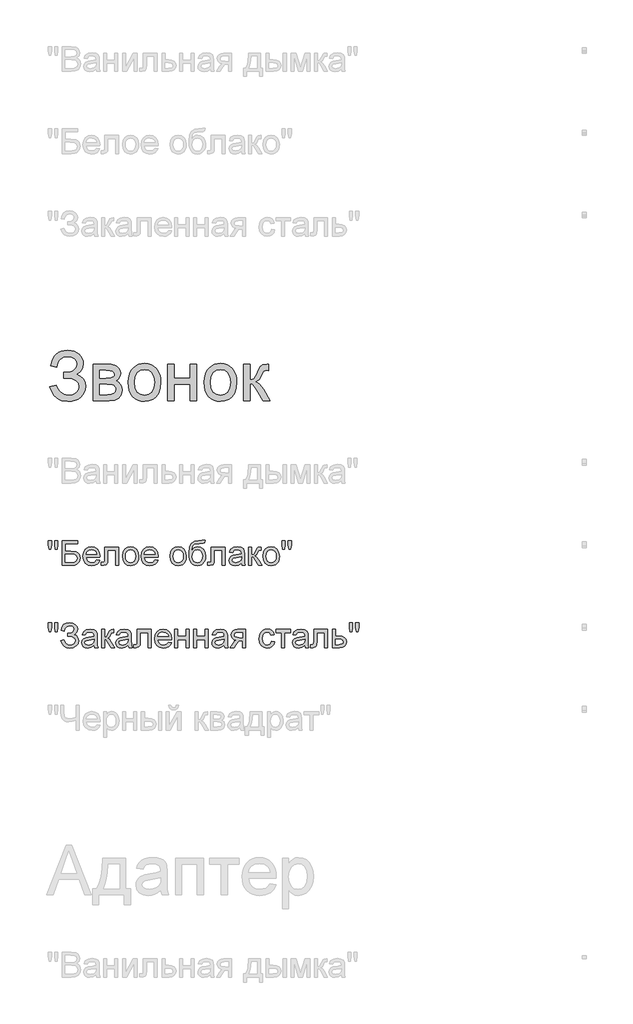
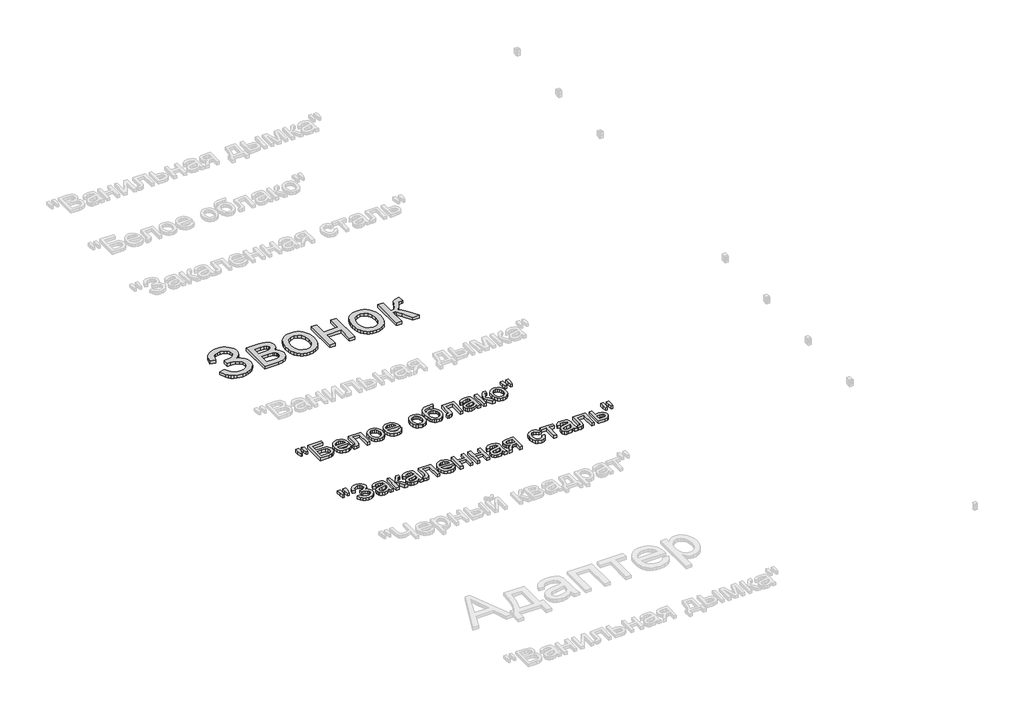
# One storey, part 66 of 168: 3 proxies.
"""IFC4 building model written with IfcOpenShell, lengths in millimetres."""

import ifcopenshell
import ifcopenshell.guid

model = None  # the IFC model being written
_history = None  # IfcOwnerHistory: only IFC2X3 demands one
_inside = {}  # id of a spatial element -> (the spatial element, [elements in it])
_under = {}  # id of a project, library or spatial element -> (it, [spatial elements below it])
_declared = {}  # id of a project -> (the project, [libraries it declares])
_typed = {}  # id of a type object -> (the type object, [elements of that type])
_made_of = {}  # id of a material, layer set ... -> (it, [elements and type objects made of it])


def new_model(schema):
    """Start an empty IFC model of exactly this schema.

    Asked for "IFC4X3", IfcOpenShell would pick the latest addendum, in which some entities
    have other attributes; the version numbers below select the first issue.
    IFC2X3 requires an IfcOwnerHistory on every rooted entity: one is made here for all.
    """
    global model, _history
    if schema == "IFC4X3":
        model = ifcopenshell.file(schema_version=(4, 3, 0, 0))
    else:
        model = ifcopenshell.file(schema=schema)
    _inside.clear()
    _under.clear()
    _declared.clear()
    _typed.clear()
    _made_of.clear()
    _history = None
    if model.schema == "IFC2X3":
        org = make("IfcOrganization", Name="unknown")
        user = make(
            "IfcPersonAndOrganization",
            ThePerson=make("IfcPerson", FamilyName="unknown"),
            TheOrganization=org,
        )
        app = make(
            "IfcApplication",
            ApplicationDeveloper=org,
            Version="unknown",
            ApplicationFullName="unknown",
            ApplicationIdentifier="unknown",
        )
        _history = make(
            "IfcOwnerHistory",
            OwningUser=user,
            OwningApplication=app,
            ChangeAction="ADDED",
            CreationDate=0,
        )
    return model


def make(cls, **values):
    """One entity of the class cls with the attributes given. An attribute that is None is left unset."""
    return model.create_entity(
        cls, **{name: value for name, value in values.items() if value is not None}
    )


def rooted(cls, **values):
    """An entity with a GlobalId (a new one), such as an element, a storey or a relation."""
    return make(cls, GlobalId=ifcopenshell.guid.new(), OwnerHistory=_history, **values)


def si_unit(unit_type, name, prefix=None):
    """IfcSIUnit, for example si_unit("LENGTHUNIT", "METRE", prefix="MILLI")."""
    return make("IfcSIUnit", UnitType=unit_type, Prefix=prefix, Name=name)


def assignment(units):
    """IfcUnitAssignment: the units of a project."""
    return None if units is None else make("IfcUnitAssignment", Units=units)


def point(xyz):
    """IfcCartesianPoint."""
    return None if xyz is None else make("IfcCartesianPoint", Coordinates=xyz)


def direction(xyz):
    """IfcDirection."""
    return None if xyz is None else make("IfcDirection", DirectionRatios=xyz)


def frame(location, z_axis=None, x_axis=None):
    """IfcAxis2Placement3D, a coordinate frame: its origin and axes. An axis left out is left unset."""
    return make(
        "IfcAxis2Placement3D",
        Location=point(location),
        Axis=direction(z_axis),
        RefDirection=direction(x_axis),
    )


def origin():
    """The frame at (0, 0, 0) with its axes left unset."""
    return frame((0.0, 0.0, 0.0))


def origin_with_axes():
    """The frame at (0, 0, 0) with the z axis (0, 0, 1) and the x axis (1, 0, 0) written out."""
    return frame((0.0, 0.0, 0.0), z_axis=(0.0, 0.0, 1.0), x_axis=(1.0, 0.0, 0.0))


def place(relative_to, where):
    """IfcLocalPlacement: puts the frame where relative to a parent placement (None: the world)."""
    return make(
        "IfcLocalPlacement", PlacementRelTo=relative_to, RelativePlacement=where
    )


def context(
    kind, dimensions, precision=None, world=None, true_north=None, identifier=None
):
    """IfcGeometricRepresentationContext, for example the 3D "Model" context."""
    return make(
        "IfcGeometricRepresentationContext",
        ContextIdentifier=identifier,
        ContextType=kind,
        CoordinateSpaceDimension=dimensions,
        Precision=precision,
        WorldCoordinateSystem=world,
        TrueNorth=true_north,
    )


def project(units=None, contexts=None):
    """IfcProject with its units and contexts."""
    return rooted(
        "IfcProject",
        Name="project",
        RepresentationContexts=contexts,
        UnitsInContext=assignment(units),
    )


def spatial(cls, under=None, at=None, **own):
    """A site, building, storey or space (cls), placed at a placement, below another one or the project."""
    s = rooted(cls, ObjectPlacement=at, **own)
    if under is not None:
        _under.setdefault(under.id(), (under, []))[1].append(s)
    return s


def polyline(points):
    """IfcPolyline through the points."""
    return make("IfcPolyline", Points=[point(p) for p in points])


def outline(outer, holes=None, kind="AREA"):
    """IfcArbitraryClosedProfileDef: a profile drawn as a closed curve; with holes, ...WithVoids."""
    if holes is None:
        return make("IfcArbitraryClosedProfileDef", ProfileType=kind, OuterCurve=outer)
    return make(
        "IfcArbitraryProfileDefWithVoids",
        ProfileType=kind,
        OuterCurve=outer,
        InnerCurves=holes,
    )


def extrude(swept, where, along, depth):
    """IfcExtrudedAreaSolid: the profile swept, set in the frame where, extruded along a direction by depth."""
    return make(
        "IfcExtrudedAreaSolid",
        SweptArea=swept,
        Position=where,
        ExtrudedDirection=direction(along),
        Depth=depth,
    )


def shape(context_of_items, identifier, shape_type, items):
    """IfcShapeRepresentation: the items that make up one representation, for example the "Body"."""
    return make(
        "IfcShapeRepresentation",
        ContextOfItems=context_of_items,
        RepresentationIdentifier=identifier,
        RepresentationType=shape_type,
        Items=items,
    )


def made_of(thing, what):
    """Note that an element or type object is made of a material, layer set ...; save() writes the relation."""
    if what is not None:
        _made_of.setdefault(what.id(), (what, []))[1].append(thing)
    return thing


def element(
    cls,
    number,
    at=None,
    inside=None,
    cuts=None,
    type_object=None,
    material=None,
    context=None,
    identifier="Body",
    shape_type=None,
    held_by="IfcProductDefinitionShape",
    body=None,
    shapes=None,
    **own,
):
    """One element of the class cls, such as IfcWall. Its Tag is "e" and its number.

    at: its placement. inside: the storey or other place that contains it. cuts: it is an
    opening in that element (IfcRelVoidsElement). A single representation is given by context,
    identifier, shape_type and body (its items); several are given by shapes. held_by: the class
    of the entity that holds the representations. save() writes the other relations.
    """
    e = rooted(cls, Tag="e%d" % number, ObjectPlacement=at, **own)
    if body is not None:
        shapes = [shape(context, identifier, shape_type, body)]
    if shapes is not None:
        e.Representation = make(held_by, Representations=shapes)
    if inside is not None:
        _inside.setdefault(inside.id(), (inside, []))[1].append(e)
    if cuts is not None:
        rooted(
            "IfcRelVoidsElement", RelatingBuildingElement=cuts, RelatedOpeningElement=e
        )
    if type_object is not None:
        _typed.setdefault(type_object.id(), (type_object, []))[1].append(e)
    return made_of(e, material)


def aggregate(whole, parts):
    """IfcRelAggregates: a whole, such as a stair, and the parts it consists of."""
    return rooted("IfcRelAggregates", RelatingObject=whole, RelatedObjects=parts)


def save(model, path):
    """Write the relations noted so far, then the file.

    IfcRelAggregates (storeys below a building ...), IfcRelContainedInSpatialStructure (elements
    in a storey), IfcRelDefinesByType, IfcRelAssociatesMaterial and IfcRelDeclares: one each for
    every whole, place, type object, material and project.
    """
    for whole, parts in _under.values():
        aggregate(whole, parts)
    for where, things in _inside.values():
        rooted(
            "IfcRelContainedInSpatialStructure",
            RelatedElements=things,
            RelatingStructure=where,
        )
    for kind, things in _typed.values():
        rooted("IfcRelDefinesByType", RelatedObjects=things, RelatingType=kind)
    for what, things in _made_of.values():
        rooted("IfcRelAssociatesMaterial", RelatedObjects=things, RelatingMaterial=what)
    for by, libraries in _declared.values():
        rooted("IfcRelDeclares", RelatingContext=by, RelatedDefinitions=libraries)
    model.write(path)


model = new_model("IFC4")

# Units and contexts
model_context = context("Model", 3, world=origin())
ifc_project = project(units=[si_unit("LENGTHUNIT", "METRE", prefix="MILLI")], contexts=[model_context])

# Site, building, storey
site = spatial("IfcSite", under=ifc_project)
building = spatial("IfcBuilding", under=site)
storey = spatial("IfcBuildingStorey", under=building, Name="Этаж 01", Elevation=0.0)

# Proxies
placement = place(None, origin())
element("IfcBuildingElementProxy", 1, Name="300 мм Arial 2", ObjectType="300 мм Arial 2", at=placement, inside=storey, context=model_context, shape_type="SweptSolid", body=[
    extrude(outline(polyline([(54394.5965281, -37482.102286), (54432.2676444, -37472.684507), (54440.2230925, -37493.0743666), (54455.4074219, -37513.4826202), (54477.2688094, -37528.7957083), (54505.2554322, -37533.900071), (54533.609937, -37530.0649012), (54555.2505954, -37518.5593918), (54568.9633967, -37501.6276229), (54573.5343305, -37481.5136749), (54568.5403324, -37460.4432336), (54553.5583382, -37444.1736523), (54529.9679052, -37433.7717889), (54499.1485911, -37430.3045011), (54479.3565398, -37430.3045011), (54479.3565398, -37392.6333848), (54521.994063, -37389.5799643), (54535.8908054, -37384.1537048), (54548.0768965, -37373.9817677), (54556.5749705, -37360.581666), (54559.4076619, -37345.470913), (54555.6368715, -37327.7298038), (54544.3245001, -37312.4718981), (54526.5741938, -37301.9596701), (54503.4895986, -37298.4555941), (54482.6214925, -37301.1503297), (54465.0459301, -37309.2345365), (54451.5814491, -37321.7701155), (54443.0465868, -37337.8189675), (54436.9765339, -37364.3800476), (54399.3054176, -37354.9622685), (54411.0086636, -37313.7594851), (54420.4229938, -37297.5726773), (54432.2124621, -37284.3289254), (54446.3770685, -37274.0282296), (54462.9168131, -37266.6705897), (54481.8316958, -37262.2560057), (54503.1217166, -37260.7844777), (54523.6334371, -37262.3134873), (54541.905676, -37266.9005159), (54557.9384332, -37274.5455636), (54571.7317087, -37285.2486304), (54582.8210516, -37297.9980408), (54590.7420108, -37311.7821193), (54595.4945864, -37326.6008659), (54597.0787782, -37342.4542807), (54594.6139688, -37362.2785217), (54587.2195407, -37379.7391209), (54574.8954939, -37394.8360783), (54557.6418283, -37407.5693938), (54578.592708, -37417.2170991), (54595.8279794, -37433.5050745), (54607.36108, -37455.0353682), (54611.2054468, -37480.4100289), (54609.3614383, -37499.0409527), (54603.8294128, -37516.0853853), (54594.6093703, -37531.5433269), (54581.7013108, -37545.4147774), (54565.7490278, -37556.8582067), (54547.3963148, -37565.0320848), (54526.6431717, -37569.9364117), (54503.4895986, -37571.5711873), (54465.2850534, -37565.9793809), (54448.9281002, -37558.989623), (54434.4013599, -37549.203962), (54421.7048326, -37536.6223977), (54410.8385182, -37521.2449303), (54394.5965281, -37482.102286)])), origin_with_axes(), (0.0, 0.0, 1.0), 20.0),
    extrude(outline(polyline([(54658.2943422, -37345.5444894), (54741.2885203, -37345.5444894), (54767.969162, -37346.8044853), (54786.7955231, -37350.5844728), (54800.6462802, -37357.7213835), (54812.40011, -37369.0521489), (54820.4291345, -37383.813414), (54823.105476, -37401.2418235), (54821.4867953, -37415.2857187), (54816.6307529, -37427.3982334), (54808.5189549, -37437.6345499), (54797.1330072, -37446.0498505), (54811.0757348, -37453.87654), (54822.4432885, -37466.4673013), (54830.0032635, -37482.828853), (54832.5232551, -37501.9679138), (54826.1405025, -37530.6811035), (54810.9653702, -37550.8962191), (54786.9426759, -37562.8707781), (54754.0172374, -37566.8622977), (54658.2943422, -37566.8622977), (54658.2943422, -37345.5444894)]), holes=[polyline([(54695.9654585, -37430.3045011), (54733.1951164, -37430.3045011), (54763.913263, -37428.3915147), (54778.849272, -37420.7395692), (54783.7880878, -37414.4119989), (54785.4343597, -37406.9072062), (54782.5464861, -37395.6684113), (54773.8828651, -37388.4395301), (54758.2294862, -37384.5215868), (54734.3723388, -37383.2156057), (54695.9654585, -37383.2156057), (54695.9654585, -37430.3045011)]), polyline([(54695.9654585, -37529.1911814), (54742.1714371, -37529.1911814), (54767.3529597, -37527.4897272), (54783.1534914, -37522.3853645), (54791.6331714, -37513.1055412), (54794.8521388, -37498.877705), (54793.2426551, -37489.4507289), (54788.4142039, -37480.7411227), (54781.0013817, -37473.9261087), (54771.6387849, -37470.1829094), (54738.4926172, -37467.9756174), (54695.9654585, -37467.9756174), (54695.9654585, -37529.1911814)])]), origin_with_axes(), (0.0, 0.0, 1.0), 20.0),
    extrude(outline(polyline([(54870.1943714, -37456.2033936), (54872.231518, -37427.5407876), (54878.3429576, -37402.8421102), (54888.5286904, -37382.1073612), (54902.7887162, -37365.3365408), (54917.1453111, -37354.6173791), (54932.991828, -37346.9608351), (54950.328267, -37342.3669087), (54969.1546281, -37340.8355999), (54989.9376616, -37342.7003018), (55008.7295338, -37348.2944073), (55025.5302446, -37357.6179167), (55040.3397942, -37370.6708297), (55052.427017, -37387.0116881), (55061.0607476, -37406.1990334), (55066.2409859, -37428.2328656), (55067.967732, -37453.1131848), (55064.9143115, -37491.1705772), (55055.7540498, -37520.1412843), (55040.7536614, -37541.837125), (55020.1798609, -37558.069918), (54995.7432993, -37568.19587), (54969.1546281, -37571.5711873), (54948.068092, -37569.7133832), (54929.1014759, -37564.139971), (54912.2547798, -37554.8509506), (54897.5280037, -37541.8463221), (54885.5695396, -37525.3468146), (54877.0277795, -37505.5731573), (54871.9027234, -37482.5253503), (54870.1943714, -37456.2033936)]), holes=[polyline([(54907.8654877, -37456.1298172), (54912.2248894, -37490.2232811), (54925.3030943, -37514.5126898), (54944.984781, -37529.0532257), (54969.1546281, -37533.900071), (54993.2141106, -37529.0256345), (55012.8590092, -37514.4023252), (55025.9372141, -37489.7910197), (55030.2966157, -37454.9525948), (55025.9096229, -37421.8524123), (55012.7486446, -37397.8940973), (54993.0761549, -37383.3535615), (54969.1546281, -37378.5067162), (54944.984781, -37383.3351674), (54925.3030943, -37397.820521), (54912.2248894, -37422.0547474), (54907.8654877, -37456.1298172)])]), origin_with_axes(), (0.0, 0.0, 1.0), 20.0),
    extrude(outline(polyline([(55110.3477379, -37345.5444894), (55148.0188542, -37345.5444894), (55148.0188542, -37430.3045011), (55246.9055345, -37430.3045011), (55246.9055345, -37345.5444894), (55284.5766508, -37345.5444894), (55284.5766508, -37566.8622977), (55246.9055345, -37566.8622977), (55246.9055345, -37467.9756174), (55148.0188542, -37467.9756174), (55148.0188542, -37566.8622977), (55110.3477379, -37566.8622977), (55110.3477379, -37345.5444894)])), origin_with_axes(), (0.0, 0.0, 1.0), 20.0),
    extrude(outline(polyline([(55331.6655462, -37456.2033936), (55333.7026927, -37427.5407876), (55339.8141324, -37402.8421102), (55349.9998651, -37382.1073612), (55364.259891, -37365.3365408), (55378.6164858, -37354.6173791), (55394.4630028, -37346.9608351), (55411.7994418, -37342.3669087), (55430.6258029, -37340.8355999), (55451.4088363, -37342.7003018), (55470.2007085, -37348.2944073), (55487.0014194, -37357.6179167), (55501.8109689, -37370.6708297), (55513.8981918, -37387.0116881), (55522.5319223, -37406.1990334), (55527.7121607, -37428.2328656), (55529.4389068, -37453.1131848), (55526.3854862, -37491.1705772), (55517.2252245, -37520.1412843), (55502.2248362, -37541.837125), (55481.6510356, -37558.069918), (55457.2144741, -37568.19587), (55430.6258029, -37571.5711873), (55409.5392668, -37569.7133832), (55390.5726507, -37564.139971), (55373.7259545, -37554.8509506), (55358.9991784, -37541.8463221), (55347.0407143, -37525.3468146), (55338.4989542, -37505.5731573), (55333.3738982, -37482.5253503), (55331.6655462, -37456.2033936)]), holes=[polyline([(55369.3366625, -37456.1298172), (55373.6960641, -37490.2232811), (55386.7742691, -37514.5126898), (55406.4559558, -37529.0532257), (55430.6258029, -37533.900071), (55454.6852854, -37529.0256345), (55474.3301839, -37514.4023252), (55487.4083888, -37489.7910197), (55491.7677905, -37454.9525948), (55487.3807977, -37421.8524123), (55474.2198193, -37397.8940973), (55454.5473296, -37383.3535615), (55430.6258029, -37378.5067162), (55406.4559558, -37383.3351674), (55386.7742691, -37397.820521), (55373.6960641, -37422.0547474), (55369.3366625, -37456.1298172)])]), origin_with_axes(), (0.0, 0.0, 1.0), 20.0),
    extrude(outline(polyline([(55571.8189126, -37345.5444894), (55609.4900289, -37345.5444894), (55609.4900289, -37439.7222802), (55624.812314, -37438.030023), (55634.7267338, -37432.9532515), (55643.5007194, -37419.7094997), (55655.4017019, -37393.5163016), (55672.5817911, -37359.4872171), (55687.7385293, -37348.413969), (55715.2928907, -37345.5444894), (55722.5033779, -37345.5444894), (55722.5033779, -37383.4363349), (55712.3498348, -37383.2156057), (55693.955735, -37387.1887313), (55681.0062888, -37411.9839778), (55665.8127624, -37438.8025752), (55644.5123949, -37451.9359624), (55656.4501656, -37457.2380617), (55668.2775718, -37466.5960599), (55691.6012903, -37497.4797534), (55731.9211569, -37566.8622977), (55689.0996927, -37566.8622977), (55649.5891664, -37498.9512814), (55629.7235387, -37470.2196976), (55620.4345183, -37465.0049703), (55609.4900289, -37463.2667279), (55609.4900289, -37566.8622977), (55571.8189126, -37566.8622977), (55571.8189126, -37345.5444894)])), origin_with_axes(), (0.0, 0.0, 1.0), 20.0),
])
element("IfcBuildingElementProxy", 2, Name="150", ObjectType="150", at=placement, inside=storey, context=model_context, shape_type="SweptSolid", body=[
    extrude(outline(polyline([(54389.7772739, -38470.3300622), (54385.178749, -38441.2305964), (54385.178749, -38416.1778325), (54404.0143071, -38416.1778325), (54404.0143071, -38441.2305964), (54399.8940288, -38470.3300622), (54389.7772739, -38470.3300622)])), origin_with_axes(), (0.0, 0.0, 1.0), 20.0),
    extrude(outline(polyline([(54427.3380256, -38470.3300622), (54422.8498653, -38441.2305964), (54422.8498653, -38416.1778325), (54441.6854234, -38416.1778325), (54441.6854234, -38441.2305964), (54437.2708395, -38470.3300622), (54427.3380256, -38470.3300622)])), origin_with_axes(), (0.0, 0.0, 1.0), 20.0),
    extrude(outline(polyline([(54467.5843159, -38416.1778325), (54561.7621067, -38416.1778325), (54561.7621067, -38435.0133907), (54486.4198741, -38435.0133907), (54486.4198741, -38479.7478413), (54521.6997574, -38479.7478413), (54552.785786, -38483.573814), (54563.1876494, -38489.101241), (54571.2902503, -38498.0315764), (54576.5049776, -38509.5278888), (54578.2432201, -38522.7532465), (54573.2952072, -38544.2191609), (54558.5247451, -38560.5347274), (54545.2534021, -38565.2804052), (54525.0842718, -38566.8622977), (54467.5843159, -38566.8622977), (54467.5843159, -38416.1778325)]), holes=[polyline([(54486.4198741, -38548.0267396), (54526.7765289, -38548.0267396), (54541.0411533, -38546.4724382), (54551.2406816, -38541.8095339), (54557.3659168, -38534.0380267), (54559.4076619, -38523.1579167), (54554.7355606, -38508.4058487), (54541.730932, -38500.533174), (54513.3488361, -38498.5833994), (54486.4198741, -38498.5833994), (54486.4198741, -38548.0267396)])]), origin_with_axes(), (0.0, 0.0, 1.0), 20.0),
    extrude(outline(polyline([(54679.2636159, -38533.900071), (54697.7312921, -38536.2545157), (54691.0772265, -38550.1696522), (54680.4592324, -38560.5715156), (54666.1164331, -38567.0554358), (54648.2879519, -38569.2167425), (54626.1874411, -38565.4873388), (54609.1820959, -38554.2991276), (54598.338774, -38536.3786759), (54594.7243334, -38512.4525506), (54598.3755622, -38487.7216835), (54609.3292486, -38469.2264162), (54626.1046676, -38457.6933157), (54647.2210942, -38453.8489488), (54667.6799316, -38457.6841186), (54684.0276878, -38469.189628), (54694.7468494, -38487.6481071), (54698.3199033, -38512.342186), (54698.2095387, -38517.4189576), (54613.5598916, -38517.4189576), (54616.8202458, -38531.518035), (54624.3940164, -38541.8831103), (54635.3247101, -38548.2566658), (54648.6558339, -38550.3811843), (54667.1235101, -38546.444847), (54679.2636159, -38533.900071)]), holes=[polyline([(54613.5598916, -38498.5833994), (54679.4843451, -38498.5833994), (54676.9367623, -38488.6321915), (54671.9427642, -38481.5136749), (54660.9614867, -38474.8917989), (54647.1475178, -38472.684507), (54634.4509904, -38474.445742), (54623.952558, -38479.7294472), (54616.6546989, -38487.9654053), (54613.5598916, -38498.5833994)])]), origin_with_axes(), (0.0, 0.0, 1.0), 20.0),
    extrude(outline(polyline([(54726.5732405, -38456.2033936), (54811.3332522, -38456.2033936), (54811.3332522, -38566.7519331), (54792.497694, -38566.7519331), (54792.497694, -38475.0389517), (54745.4087987, -38475.0389517), (54745.4087987, -38527.830018), (54744.1396058, -38552.1838061), (54737.168242, -38562.4661079), (54720.6871286, -38566.8622977), (54705.3832376, -38565.9058045), (54705.3832376, -38548.0267396), (54713.8077353, -38548.0267396), (54722.3242035, -38546.8679113), (54725.7271119, -38543.1890913), (54726.5732405, -38526.7631603), (54726.5732405, -38456.2033936)])), origin_with_axes(), (0.0, 0.0, 1.0), 20.0),
    extrude(outline(polyline([(54834.8776999, -38511.5328457), (54838.951993, -38484.852204), (54851.1748723, -38466.0994193), (54866.2764282, -38456.9115664), (54884.3578282, -38453.8489488), (54904.1452811, -38457.5783525), (54919.9504113, -38468.7665637), (54930.310888, -38486.5306656), (54933.7643802, -38509.9877413), (54932.2376699, -38529.0164375), (54927.6575391, -38543.501791), (54920.1573449, -38554.3497114), (54909.8704446, -38562.4661079), (54897.6521638, -38567.5290839), (54884.3578282, -38569.2167425), (54864.3312521, -38565.5011344), (54848.544516, -38554.3543099), (54838.2944039, -38536.2177275), (54834.8776999, -38511.5328457)]), holes=[polyline([(54853.713258, -38511.4960575), (54855.8929589, -38528.5427894), (54862.4320613, -38540.6874938), (54872.2729047, -38547.9577617), (54884.3578282, -38550.3811843), (54896.3875695, -38547.9439661), (54906.2100188, -38540.6323115), (54912.7491212, -38528.3266587), (54914.928822, -38510.9074463), (54912.7353256, -38494.357355), (54906.1548365, -38482.3781975), (54896.3185916, -38475.1079296), (54884.3578282, -38472.684507), (54872.2729047, -38475.0987326), (54862.4320613, -38482.3414093), (54855.8929589, -38494.4585226), (54853.713258, -38511.4960575)])]), origin_with_axes(), (0.0, 0.0, 1.0), 20.0),
    extrude(outline(polyline([(55032.4303313, -38533.900071), (55050.8980075, -38536.2545157), (55044.2439419, -38550.1696522), (55033.6259478, -38560.5715156), (55019.2831485, -38567.0554358), (55001.4546673, -38569.2167425), (54979.3541564, -38565.4873388), (54962.3488112, -38554.2991276), (54951.5054894, -38536.3786759), (54947.8910488, -38512.4525506), (54951.5422776, -38487.7216835), (54962.495964, -38469.2264162), (54979.271383, -38457.6933157), (55000.3878095, -38453.8489488), (55020.846647, -38457.6841186), (55037.1944031, -38469.189628), (55047.9135648, -38487.6481071), (55051.4866187, -38512.342186), (55051.3762541, -38517.4189576), (54966.726607, -38517.4189576), (54969.9869611, -38531.518035), (54977.5607317, -38541.8831103), (54988.4914255, -38548.2566658), (55001.8225493, -38550.3811843), (55020.2902255, -38546.444847), (55032.4303313, -38533.900071)]), holes=[polyline([(54966.726607, -38498.5833994), (55032.6510605, -38498.5833994), (55030.1034777, -38488.6321915), (55025.1094796, -38481.5136749), (55014.128202, -38474.8917989), (55000.3142331, -38472.684507), (54987.6177058, -38474.445742), (54977.1192733, -38479.7294472), (54969.8214142, -38487.9654053), (54966.726607, -38498.5833994)])]), origin_with_axes(), (0.0, 0.0, 1.0), 20.0),
    extrude(outline(polyline([(55124.4744065, -38511.5328457), (55128.5486996, -38484.852204), (55140.7715789, -38466.0994193), (55155.8731348, -38456.9115664), (55173.9545348, -38453.8489488), (55193.7419877, -38457.5783525), (55209.5471179, -38468.7665637), (55219.9075946, -38486.5306656), (55223.3610868, -38509.9877413), (55221.8343765, -38529.0164375), (55217.2542457, -38543.501791), (55209.7540515, -38554.3497114), (55199.4671512, -38562.4661079), (55187.2488704, -38567.5290839), (55173.9545348, -38569.2167425), (55153.9279587, -38565.5011344), (55138.1412226, -38554.3543099), (55127.8911105, -38536.2177275), (55124.4744065, -38511.5328457)]), holes=[polyline([(55143.3099646, -38511.4960575), (55145.4896655, -38528.5427894), (55152.0287679, -38540.6874938), (55161.8696113, -38547.9577617), (55173.9545348, -38550.3811843), (55185.9842761, -38547.9439661), (55195.8067254, -38540.6323115), (55202.3458278, -38528.3266587), (55204.5255286, -38510.9074463), (55202.3320323, -38494.357355), (55195.7515431, -38482.3781975), (55185.9152982, -38475.1079296), (55173.9545348, -38472.684507), (55161.8696113, -38475.0987326), (55152.0287679, -38482.3414093), (55145.4896655, -38494.4585226), (55143.3099646, -38511.4960575)])]), origin_with_axes(), (0.0, 0.0, 1.0), 20.0),
    extrude(outline(polyline([(55322.2477671, -38413.8233877), (55338.7288805, -38413.8233877), (55333.8728382, -38428.5202734), (55324.2711181, -38433.8361683), (55301.204917, -38435.0133907), (55270.1372825, -38439.3543982), (55263.0095688, -38445.0013868), (55258.2179058, -38453.2603376), (55254.189598, -38477.8716431), (55270.5051645, -38459.8454253), (55280.4241828, -38455.3480679), (55291.5296205, -38453.8489488), (55311.1285338, -38457.661126), (55327.030233, -38469.0976575), (55337.5700522, -38487.0365033), (55341.0833253, -38510.3556233), (55339.3404843, -38528.3358558), (55334.1119614, -38542.766027), (55317.5756658, -38562.3189551), (55306.2816885, -38567.4922957), (55291.5296205, -38569.2167425), (55274.5288738, -38566.995655), (55261.7863612, -38560.3323923), (55252.4099688, -38550.2064404), (55245.5075829, -38537.597285), (55241.2585459, -38518.6099755), (55239.8422002, -38489.3495614), (55243.4152541, -38453.2097538), (55254.1344157, -38431.1690238), (55272.2663995, -38419.9256303), (55298.07792, -38416.1778325), (55319.0471937, -38415.7547682), (55322.2477671, -38413.8233877)]), holes=[polyline([(55322.2477671, -38509.7670121), (55320.206022, -38494.9459662), (55314.0807868, -38483.0771733), (55304.2399434, -38475.2826736), (55291.0513739, -38472.684507), (55277.3017843, -38475.4298264), (55267.102256, -38483.6657845), (55260.7838828, -38496.4910706), (55258.6777583, -38513.0043736), (55261.004612, -38529.011839), (55267.9851728, -38540.7610702), (55278.3778392, -38547.9761558), (55290.9410093, -38550.3811843), (55303.5685588, -38547.5990768), (55313.565752, -38539.252754), (55320.0772633, -38526.3171033), (55322.2477671, -38509.7670121)])]), origin_with_axes(), (0.0, 0.0, 1.0), 20.0),
    extrude(outline(polyline([(55374.045552, -38456.2033936), (55458.8055637, -38456.2033936), (55458.8055637, -38566.7519331), (55439.9700056, -38566.7519331), (55439.9700056, -38475.0389517), (55392.8811102, -38475.0389517), (55392.8811102, -38527.830018), (55391.6119173, -38552.1838061), (55384.6405535, -38562.4661079), (55368.1594401, -38566.8622977), (55352.8555491, -38565.9058045), (55352.8555491, -38548.0267396), (55361.2800468, -38548.0267396), (55369.796515, -38546.8679113), (55373.1994234, -38543.1890913), (55374.045552, -38526.7631603), (55374.045552, -38456.2033936)])), origin_with_axes(), (0.0, 0.0, 1.0), 20.0),
    extrude(outline(polyline([(55557.692244, -38552.7356291), (55539.426903, -38565.5011344), (55519.2485755, -38569.2167425), (55503.5078247, -38566.9818594), (55491.8965492, -38560.27721), (55484.7366458, -38550.0960758), (55482.3500114, -38537.4317381), (55485.955255, -38522.5325173), (55495.4282163, -38511.7167867), (55508.6167859, -38505.5363691), (55524.9139582, -38502.7036778), (55557.5818794, -38496.2289547), (55557.692244, -38492.0350999), (55556.39546, -38483.6289963), (55552.5051079, -38478.1291605), (55543.8046987, -38474.0456704), (55531.682987, -38472.684507), (55512.6266996, -38476.3081446), (55503.5400143, -38489.1656204), (55484.7044562, -38486.8111756), (55492.8530424, -38468.4170758), (55509.2605794, -38457.6381334), (55534.1110081, -38453.8489488), (55556.9380859, -38457.196675), (55569.8323499, -38465.6027786), (55575.6080972, -38478.3866779), (55576.5278022, -38494.8677913), (55576.5278022, -38518.3018744), (55577.4842954, -38551.0249778), (55581.2366917, -38566.8622977), (55562.4011336, -38566.8622977), (55557.692244, -38552.7356291)]), holes=[polyline([(55557.692244, -38515.0645128), (55527.3051912, -38520.8402601), (55511.0999893, -38523.8936807), (55503.7607435, -38528.8600876), (55501.1855696, -38536.1073629), (55506.79577, -38546.2976942), (55523.2584893, -38550.3811843), (55542.3147766, -38545.8746299), (55554.6020353, -38534.9669288), (55557.5818794, -38520.3988017), (55557.692244, -38515.0645128)])]), origin_with_axes(), (0.0, 0.0, 1.0), 20.0),
    extrude(outline(polyline([(55602.4266946, -38456.2033936), (55621.2622528, -38456.2033936), (55621.2622528, -38503.292289), (55633.8806052, -38499.9077746), (55644.2180893, -38480.1892997), (55652.8081339, -38463.1747574), (55660.386503, -38457.6381334), (55674.1636837, -38456.2033936), (55677.7689272, -38456.2033936), (55677.7689272, -38475.1493163), (55672.6921557, -38475.0389517), (55663.4951058, -38477.0255145), (55657.0203827, -38489.4231377), (55649.4236195, -38502.8324365), (55638.7734358, -38509.3991301), (55650.6560242, -38516.7291788), (55662.3178834, -38532.1710256), (55682.4778168, -38566.8622977), (55661.0670847, -38566.8622977), (55641.3118215, -38532.9067896), (55631.3790077, -38518.5409977), (55621.2622528, -38515.0645128), (55621.2622528, -38566.8622977), (55602.4266946, -38566.8622977), (55602.4266946, -38456.2033936)])), origin_with_axes(), (0.0, 0.0, 1.0), 20.0),
    extrude(outline(polyline([(55689.5411511, -38511.5328457), (55693.6154442, -38484.852204), (55705.8383235, -38466.0994193), (55720.9398794, -38456.9115664), (55739.0212794, -38453.8489488), (55758.8087323, -38457.5783525), (55774.6138625, -38468.7665637), (55784.9743392, -38486.5306656), (55788.4278314, -38509.9877413), (55786.9011211, -38529.0164375), (55782.3209903, -38543.501791), (55774.8207961, -38554.3497114), (55764.5338958, -38562.4661079), (55752.315615, -38567.5290839), (55739.0212794, -38569.2167425), (55718.9947033, -38565.5011344), (55703.2079672, -38554.3543099), (55692.9578551, -38536.2177275), (55689.5411511, -38511.5328457)]), holes=[polyline([(55708.3767092, -38511.4960575), (55710.5564101, -38528.5427894), (55717.0955125, -38540.6874938), (55726.9363559, -38547.9577617), (55739.0212794, -38550.3811843), (55751.0510207, -38547.9439661), (55760.87347, -38540.6323115), (55767.4125724, -38528.3266587), (55769.5922732, -38510.9074463), (55767.3987768, -38494.357355), (55760.8182877, -38482.3781975), (55750.9820428, -38475.1079296), (55739.0212794, -38472.684507), (55726.9363559, -38475.0987326), (55717.0955125, -38482.3414093), (55710.5564101, -38494.4585226), (55708.3767092, -38511.4960575)])]), origin_with_axes(), (0.0, 0.0, 1.0), 20.0),
    extrude(outline(polyline([(55809.5074697, -38470.3300622), (55804.9089448, -38441.2305964), (55804.9089448, -38416.1778325), (55823.7445029, -38416.1778325), (55823.7445029, -38441.2305964), (55819.6242246, -38470.3300622), (55809.5074697, -38470.3300622)])), origin_with_axes(), (0.0, 0.0, 1.0), 20.0),
    extrude(outline(polyline([(55847.0682214, -38470.3300622), (55842.5800611, -38441.2305964), (55842.5800611, -38416.1778325), (55861.4156192, -38416.1778325), (55861.4156192, -38441.2305964), (55857.0010353, -38470.3300622), (55847.0682214, -38470.3300622)])), origin_with_axes(), (0.0, 0.0, 1.0), 20.0),
])
element("IfcBuildingElementProxy", 3, Name="150", ObjectType="150", at=placement, inside=storey, context=model_context, shape_type="SweptSolid", body=[
    extrude(outline(polyline([(54389.7772739, -38970.3300622), (54385.178749, -38941.2305964), (54385.178749, -38916.1778325), (54404.0143071, -38916.1778325), (54404.0143071, -38941.2305964), (54399.8940288, -38970.3300622), (54389.7772739, -38970.3300622)])), origin_with_axes(), (0.0, 0.0, 1.0), 20.0),
    extrude(outline(polyline([(54427.3380256, -38970.3300622), (54422.8498653, -38941.2305964), (54422.8498653, -38916.1778325), (54441.6854234, -38916.1778325), (54441.6854234, -38941.2305964), (54437.2708395, -38970.3300622), (54427.3380256, -38970.3300622)])), origin_with_axes(), (0.0, 0.0, 1.0), 20.0),
    extrude(outline(polyline([(54460.5209816, -39024.4822919), (54479.3565398, -39019.7734024), (54490.9264285, -39040.172459), (54501.8571223, -39047.829003), (54515.8504337, -39050.3811843), (54530.0276861, -39048.4635995), (54540.8480152, -39042.7108448), (54547.7044159, -39034.2449603), (54549.9898828, -39024.1879863), (54547.4928838, -39013.6527657), (54540.0018867, -39005.517975), (54528.2066702, -39000.3170433), (54512.7970131, -38998.5833994), (54502.9009874, -38998.5833994), (54502.9009874, -38979.7478413), (54524.2197491, -38978.221131), (54537.2611658, -38970.4220327), (54542.9265485, -38956.1666054), (54541.0411533, -38947.2960508), (54535.3849676, -38939.6670979), (54526.5098145, -38934.4109839), (54514.9675169, -38932.6589459), (54495.7456826, -38938.0484171), (54484.746011, -38952.3406326), (54481.7109845, -38965.6211727), (54462.8754264, -38960.9122831), (54468.7270494, -38940.3108914), (54479.3289486, -38925.5956116), (54494.6811241, -38916.7664437), (54514.7835759, -38913.8233877), (54534.1755556, -38916.8814068), (54549.0885719, -38926.0554641), (54558.593723, -38939.3222085), (54561.7621067, -38954.6582892), (54556.8324879, -38973.3007093), (54542.0436317, -38987.2158458), (54552.5190715, -38992.0396984), (54561.1367073, -39000.1836861), (54566.9032576, -39010.948833), (54568.825441, -39023.6361633), (54565.137424, -39041.4738415), (54554.073373, -39056.1385376), (54536.9208749, -39065.9471913), (54514.9675169, -39069.2167425), (54495.8652443, -39066.4208393), (54480.4233975, -39058.0331298), (54468.6419766, -39044.053614), (54460.5209816, -39024.4822919)])), origin_with_axes(), (0.0, 0.0, 1.0), 20.0),
    extrude(outline(polyline([(54663.0032317, -39052.7356291), (54644.7378907, -39065.5011344), (54624.5595633, -39069.2167425), (54608.8188124, -39066.9818594), (54597.2075369, -39060.27721), (54590.0476336, -39050.0960758), (54587.6609991, -39037.4317381), (54591.2662427, -39022.5325173), (54600.7392041, -39011.7167867), (54613.9277736, -39005.5363691), (54630.224946, -39002.7036778), (54662.8928671, -38996.2289547), (54663.0032317, -38992.0350999), (54661.7064477, -38983.6289963), (54657.8160956, -38978.1291605), (54649.1156864, -38974.0456704), (54636.9939747, -38972.684507), (54617.9376873, -38976.3081446), (54608.8510021, -38989.1656204), (54590.0154439, -38986.8111756), (54598.1640301, -38968.4170758), (54614.5715671, -38957.6381334), (54639.4219959, -38953.8489488), (54662.2490737, -38957.196675), (54675.1433376, -38965.6027786), (54680.9190849, -38978.3866779), (54681.8387899, -38994.8677913), (54681.8387899, -39018.3018744), (54682.7952831, -39051.0249778), (54686.5476794, -39066.8622977), (54667.7121213, -39066.8622977), (54663.0032317, -39052.7356291)]), holes=[polyline([(54663.0032317, -39015.0645128), (54632.6161789, -39020.8402601), (54616.4109771, -39023.8936807), (54609.0717313, -39028.8600876), (54606.4965573, -39036.1073629), (54612.1067577, -39046.2976942), (54628.569477, -39050.3811843), (54647.6257643, -39045.8746299), (54659.913023, -39034.9669288), (54662.8928671, -39020.3988017), (54663.0032317, -39015.0645128)])]), origin_with_axes(), (0.0, 0.0, 1.0), 20.0),
    extrude(outline(polyline([(54707.7376824, -38956.2033936), (54726.5732405, -38956.2033936), (54726.5732405, -39003.292289), (54739.1915929, -38999.9077746), (54749.529077, -38980.1892997), (54758.1191216, -38963.1747574), (54765.6974907, -38957.6381334), (54779.4746714, -38956.2033936), (54783.079915, -38956.2033936), (54783.079915, -38975.1493163), (54778.0031434, -38975.0389517), (54768.8060936, -38977.0255145), (54762.3313704, -38989.4231377), (54754.7346072, -39002.8324365), (54744.0844235, -39009.3991301), (54755.9670119, -39016.7291788), (54767.6288712, -39032.1710256), (54787.7888045, -39066.8622977), (54766.3780724, -39066.8622977), (54746.6228092, -39032.9067896), (54736.6899954, -39018.5409977), (54726.5732405, -39015.0645128), (54726.5732405, -39066.8622977), (54707.7376824, -39066.8622977), (54707.7376824, -38956.2033936)])), origin_with_axes(), (0.0, 0.0, 1.0), 20.0),
    extrude(outline(polyline([(54870.1943714, -39052.7356291), (54851.9290304, -39065.5011344), (54831.7507029, -39069.2167425), (54816.0099521, -39066.9818594), (54804.3986766, -39060.27721), (54797.2387733, -39050.0960758), (54794.8521388, -39037.4317381), (54798.4573824, -39022.5325173), (54807.9303437, -39011.7167867), (54821.1189133, -39005.5363691), (54837.4160857, -39002.7036778), (54870.0840068, -38996.2289547), (54870.1943714, -38992.0350999), (54868.8975874, -38983.6289963), (54865.0072353, -38978.1291605), (54856.3068261, -38974.0456704), (54844.1851144, -38972.684507), (54825.128827, -38976.3081446), (54816.0421417, -38989.1656204), (54797.2065836, -38986.8111756), (54805.3551698, -38968.4170758), (54821.7627068, -38957.6381334), (54846.6131355, -38953.8489488), (54869.4402133, -38957.196675), (54882.3344773, -38965.6027786), (54888.1102246, -38978.3866779), (54889.0299296, -38994.8677913), (54889.0299296, -39018.3018744), (54889.9864228, -39051.0249778), (54893.7388191, -39066.8622977), (54874.903261, -39066.8622977), (54870.1943714, -39052.7356291)]), holes=[polyline([(54870.1943714, -39015.0645128), (54839.8073186, -39020.8402601), (54823.6021167, -39023.8936807), (54816.2628709, -39028.8600876), (54813.687697, -39036.1073629), (54819.2978974, -39046.2976942), (54835.7606167, -39050.3811843), (54854.816904, -39045.8746299), (54867.1041627, -39034.9669288), (54870.0840068, -39020.3988017), (54870.1943714, -39015.0645128)])]), origin_with_axes(), (0.0, 0.0, 1.0), 20.0),
    extrude(outline(polyline([(54924.3466011, -38956.2033936), (55009.1066128, -38956.2033936), (55009.1066128, -39066.7519331), (54990.2710547, -39066.7519331), (54990.2710547, -38975.0389517), (54943.1821593, -38975.0389517), (54943.1821593, -39027.830018), (54941.9129664, -39052.1838061), (54934.9416026, -39062.4661079), (54918.4604892, -39066.8622977), (54903.1565982, -39065.9058045), (54903.1565982, -39048.0267396), (54911.5810959, -39048.0267396), (54920.0975641, -39046.8679113), (54923.5004725, -39043.1890913), (54924.3466011, -39026.7631603), (54924.3466011, -38956.2033936)])), origin_with_axes(), (0.0, 0.0, 1.0), 20.0),
    extrude(outline(polyline([(55114.8358982, -39033.900071), (55133.3035744, -39036.2545157), (55126.6495088, -39050.1696522), (55116.0315147, -39060.5715156), (55101.6887154, -39067.0554358), (55083.8602342, -39069.2167425), (55061.7597234, -39065.4873388), (55044.7543781, -39054.2991276), (55033.9110563, -39036.3786759), (55030.2966157, -39012.4525506), (55033.9478445, -38987.7216835), (55044.9015309, -38969.2264162), (55061.6769499, -38957.6933157), (55082.7933764, -38953.8489488), (55103.2522139, -38957.6841186), (55119.5999701, -38969.189628), (55130.3191317, -38987.6481071), (55133.8921856, -39012.342186), (55133.781821, -39017.4189576), (55049.1321739, -39017.4189576), (55052.3925281, -39031.518035), (55059.9662986, -39041.8831103), (55070.8969924, -39048.2566658), (55084.2281162, -39050.3811843), (55102.6957924, -39046.444847), (55114.8358982, -39033.900071)]), holes=[polyline([(55049.1321739, -38998.5833994), (55115.0566274, -38998.5833994), (55112.5090446, -38988.6321915), (55107.5150465, -38981.5136749), (55096.533769, -38974.8917989), (55082.7198, -38972.684507), (55070.0232727, -38974.445742), (55059.5248402, -38979.7294472), (55052.2269812, -38987.9654053), (55049.1321739, -38998.5833994)])]), origin_with_axes(), (0.0, 0.0, 1.0), 20.0),
    extrude(outline(polyline([(55152.7277437, -38956.2033936), (55171.5633019, -38956.2033936), (55171.5633019, -38998.5833994), (55221.006642, -38998.5833994), (55221.006642, -38956.2033936), (55239.8422002, -38956.2033936), (55239.8422002, -39066.8622977), (55221.006642, -39066.8622977), (55221.006642, -39017.4189576), (55171.5633019, -39017.4189576), (55171.5633019, -39066.8622977), (55152.7277437, -39066.8622977), (55152.7277437, -38956.2033936)])), origin_with_axes(), (0.0, 0.0, 1.0), 20.0),
    extrude(outline(polyline([(55268.0955374, -38956.2033936), (55286.9310956, -38956.2033936), (55286.9310956, -38998.5833994), (55336.3744357, -38998.5833994), (55336.3744357, -38956.2033936), (55355.2099939, -38956.2033936), (55355.2099939, -39066.8622977), (55336.3744357, -39066.8622977), (55336.3744357, -39017.4189576), (55286.9310956, -39017.4189576), (55286.9310956, -39066.8622977), (55268.0955374, -39066.8622977), (55268.0955374, -38956.2033936)])), origin_with_axes(), (0.0, 0.0, 1.0), 20.0),
    extrude(outline(polyline([(55454.0966742, -39052.7356291), (55435.8313331, -39065.5011344), (55415.6530057, -39069.2167425), (55399.9122548, -39066.9818594), (55388.3009793, -39060.27721), (55381.141076, -39050.0960758), (55378.7544416, -39037.4317381), (55382.3596851, -39022.5325173), (55391.8326465, -39011.7167867), (55405.021216, -39005.5363691), (55421.3183884, -39002.7036778), (55453.9863096, -38996.2289547), (55454.0966742, -38992.0350999), (55452.7998901, -38983.6289963), (55448.909538, -38978.1291605), (55440.2091289, -38974.0456704), (55428.0874171, -38972.684507), (55409.0311298, -38976.3081446), (55399.9444445, -38989.1656204), (55381.1088863, -38986.8111756), (55389.2574725, -38968.4170758), (55405.6650095, -38957.6381334), (55430.5154383, -38953.8489488), (55453.3425161, -38957.196675), (55466.23678, -38965.6027786), (55472.0125273, -38978.3866779), (55472.9322323, -38994.8677913), (55472.9322323, -39018.3018744), (55473.8887255, -39051.0249778), (55477.6411219, -39066.8622977), (55458.8055637, -39066.8622977), (55454.0966742, -39052.7356291)]), holes=[polyline([(55454.0966742, -39015.0645128), (55423.7096214, -39020.8402601), (55407.5044195, -39023.8936807), (55400.1651737, -39028.8600876), (55397.5899997, -39036.1073629), (55403.2002001, -39046.2976942), (55419.6629194, -39050.3811843), (55438.7192068, -39045.8746299), (55451.0064654, -39034.9669288), (55453.9863096, -39020.3988017), (55454.0966742, -39015.0645128)])]), origin_with_axes(), (0.0, 0.0, 1.0), 20.0),
    extrude(outline(polyline([(55583.5911365, -38956.2033936), (55583.5911365, -39066.8622977), (55564.7555783, -39066.8622977), (55564.7555783, -39024.4822919), (55554.4916707, -39024.4822919), (55540.5121548, -39026.8735249), (55527.3787676, -39042.949968), (55512.3691822, -39066.8622977), (55490.5905681, -39066.8622977), (55509.4997026, -39036.6223977), (55517.8506239, -39025.7698789), (55525.5393576, -39020.9506247), (55512.6634878, -39017.0050903), (55503.6135907, -39009.5094947), (55498.2609077, -38999.5398926), (55496.47668, -38988.172339), (55498.9138982, -38975.278075), (55506.2255529, -38965.0693497), (55518.1541266, -38958.4198826), (55534.4421019, -38956.2033936), (55583.5911365, -38956.2033936)]), holes=[polyline([(55564.7555783, -38975.0389517), (55539.9235436, -38975.0389517), (55527.0982576, -38976.1288021), (55519.8187926, -38979.3983534), (55515.3122382, -38989.6070787), (55516.9723057, -38996.7853762), (55521.9525082, -39001.7655787), (55545.4785618, -39005.6467337), (55564.7555783, -39005.6467337), (55564.7555783, -38975.0389517)])]), origin_with_axes(), (0.0, 0.0, 1.0), 20.0),
    extrude(outline(polyline([(55741.338936, -39026.8367367), (55760.1744942, -39029.1911814), (55754.9229787, -39045.9436078), (55745.0545442, -39058.6033469), (55731.4980926, -39066.5633936), (55715.1825262, -39069.2167425), (55695.146753, -39065.5149299), (55679.4795785, -39054.4094922), (55669.3674222, -39036.387873), (55665.9967034, -39011.9375159), (55667.4360417, -38995.1758924), (55671.7540566, -38980.6491522), (55679.019726, -38968.918315), (55689.3020278, -38960.5444011), (55701.603082, -38955.5228119), (55714.9250088, -38953.8489488), (55730.8405036, -38956.1482113), (55743.5646221, -38963.0459987), (55752.6926941, -38974.174429), (55757.8200494, -38989.1656204), (55738.9844912, -38991.5200651), (55730.2472939, -38977.4117906), (55715.0721616, -38972.684507), (55702.899866, -38975.0113606), (55693.2383651, -38981.9919214), (55686.9337874, -38994.0032686), (55684.8322615, -39011.4224811), (55686.8878022, -39029.0762183), (55693.0544241, -39041.1289522), (55702.5411811, -39048.0681263), (55714.5571268, -39050.3811843), (55724.3105982, -39048.9372475), (55732.307433, -39044.605437), (55738.1245671, -39037.2753883), (55741.338936, -39026.8367367)])), origin_with_axes(), (0.0, 0.0, 1.0), 20.0),
    extrude(outline(polyline([(55767.2378285, -38956.2033936), (55856.7067297, -38956.2033936), (55856.7067297, -38975.0389517), (55821.3900582, -38975.0389517), (55821.3900582, -39066.8622977), (55802.5545, -39066.8622977), (55802.5545, -38975.0389517), (55767.2378285, -38975.0389517), (55767.2378285, -38956.2033936)])), origin_with_axes(), (0.0, 0.0, 1.0), 20.0),
    extrude(outline(polyline([(55943.8211862, -39052.7356291), (55925.5558451, -39065.5011344), (55905.3775177, -39069.2167425), (55889.6367668, -39066.9818594), (55878.0254913, -39060.27721), (55870.865588, -39050.0960758), (55868.4789535, -39037.4317381), (55872.0841971, -39022.5325173), (55881.5571585, -39011.7167867), (55894.745728, -39005.5363691), (55911.0429004, -39002.7036778), (55943.7108216, -38996.2289547), (55943.8211862, -38992.0350999), (55942.5244021, -38983.6289963), (55938.63405, -38978.1291605), (55929.9336408, -38974.0456704), (55917.8119291, -38972.684507), (55898.7556417, -38976.3081446), (55889.6689565, -38989.1656204), (55870.8333983, -38986.8111756), (55878.9819845, -38968.4170758), (55895.3895215, -38957.6381334), (55920.2399503, -38953.8489488), (55943.0670281, -38957.196675), (55955.961292, -38965.6027786), (55961.7370393, -38978.3866779), (55962.6567443, -38994.8677913), (55962.6567443, -39018.3018744), (55963.6132375, -39051.0249778), (55967.3656338, -39066.8622977), (55948.5300757, -39066.8622977), (55943.8211862, -39052.7356291)]), holes=[polyline([(55943.8211862, -39015.0645128), (55913.4341334, -39020.8402601), (55897.2289315, -39023.8936807), (55889.8896857, -39028.8600876), (55887.3145117, -39036.1073629), (55892.9247121, -39046.2976942), (55909.3874314, -39050.3811843), (55928.4437188, -39045.8746299), (55940.7309774, -39034.9669288), (55943.7108216, -39020.3988017), (55943.8211862, -39015.0645128)])]), origin_with_axes(), (0.0, 0.0, 1.0), 20.0),
    extrude(outline(polyline([(55997.9734158, -38956.2033936), (56082.7334275, -38956.2033936), (56082.7334275, -39066.7519331), (56063.8978694, -39066.7519331), (56063.8978694, -38975.0389517), (56016.808974, -38975.0389517), (56016.808974, -39027.830018), (56015.5397811, -39052.1838061), (56008.5684173, -39062.4661079), (55992.0873039, -39066.8622977), (55976.7834129, -39065.9058045), (55976.7834129, -39048.0267396), (55985.2079106, -39048.0267396), (55993.7243788, -39046.8679113), (55997.1272873, -39043.1890913), (55997.9734158, -39026.7631603), (55997.9734158, -38956.2033936)])), origin_with_axes(), (0.0, 0.0, 1.0), 20.0),
    extrude(outline(polyline([(56110.9867648, -38956.2033936), (56129.8223229, -38956.2033936), (56129.8223229, -38996.2289547), (56151.5273606, -38996.2289547), (56170.3445247, -38998.587998), (56184.2688582, -39005.6651278), (56192.8772969, -39016.8901272), (56195.7467765, -39031.692779), (56193.3049597, -39045.1710556), (56185.9795095, -39056.5432078), (56173.2829821, -39064.2825252), (56154.727934, -39066.8622977), (56110.9867648, -39066.8622977), (56110.9867648, -38956.2033936)]), holes=[polyline([(56129.8223229, -39048.0267396), (56147.4070823, -39048.0267396), (56170.1237955, -39044.0720081), (56175.2143626, -39039.0090322), (56176.9112183, -39031.7295672), (56171.8896291, -39020.1412843), (56163.8192178, -39016.3337057), (56149.6511625, -39015.0645128), (56129.8223229, -39015.0645128), (56129.8223229, -39048.0267396)])]), origin_with_axes(), (0.0, 0.0, 1.0), 20.0),
    extrude(outline(polyline([(56219.1808595, -38970.3300622), (56214.5823346, -38941.2305964), (56214.5823346, -38916.1778325), (56233.4178928, -38916.1778325), (56233.4178928, -38941.2305964), (56229.2976144, -38970.3300622), (56219.1808595, -38970.3300622)])), origin_with_axes(), (0.0, 0.0, 1.0), 20.0),
    extrude(outline(polyline([(56256.7416113, -38970.3300622), (56252.2534509, -38941.2305964), (56252.2534509, -38916.1778325), (56271.0890091, -38916.1778325), (56271.0890091, -38941.2305964), (56266.6744251, -38970.3300622), (56256.7416113, -38970.3300622)])), origin_with_axes(), (0.0, 0.0, 1.0), 20.0),
])

save(model, "model.ifc")
